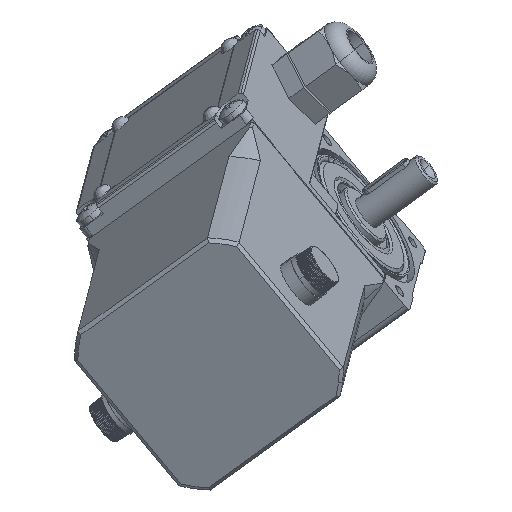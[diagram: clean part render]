
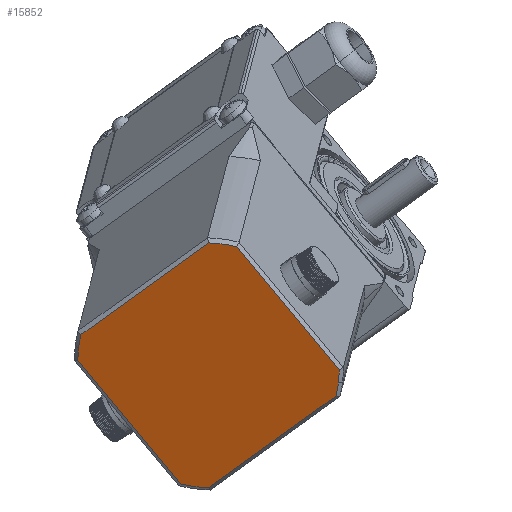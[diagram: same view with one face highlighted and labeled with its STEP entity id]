
A CAD part, front view. The second image highlights one B-rep face of the part: STEP entity #15852.
In plain terms, the highlighted planar face has unit normal (-0.094, -0.929, -0.357).
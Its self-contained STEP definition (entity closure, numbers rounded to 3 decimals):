
#15210=CARTESIAN_POINT('',(30.638,-47.344,-96.969));
#15211=VERTEX_POINT('',#15210);
#15227=CARTESIAN_POINT('',(30.835,-48.68,-93.545));
#15228=VERTEX_POINT('',#15227);
#15236=CARTESIAN_POINT('',(-3.014,-45.693,-92.402));
#15237=DIRECTION('',(0.094,0.929,0.357));
#15238=DIRECTION('',(0.99,-0.049,-0.134));
#15239=AXIS2_PLACEMENT_3D('',#15236,#15237,#15238);
#15240=CIRCLE('',#15239,34.);
#15241=EDGE_CURVE('',#15228,#15211,#15240,.T.);
#15251=CARTESIAN_POINT('',(-36.665,-44.042,-87.834));
#15252=VERTEX_POINT('',#15251);
#15260=CARTESIAN_POINT('',(-36.863,-42.706,-91.259));
#15261=VERTEX_POINT('',#15260);
#15269=CARTESIAN_POINT('',(-3.014,-45.693,-92.402));
#15270=DIRECTION('',(0.094,0.929,0.357));
#15271=DIRECTION('',(-0.99,0.049,0.134));
#15272=AXIS2_PLACEMENT_3D('',#15269,#15270,#15271);
#15273=CIRCLE('',#15272,34.);
#15274=EDGE_CURVE('',#15261,#15252,#15273,.T.);
#15526=CARTESIAN_POINT('',(4.258,-58.25,-61.654));
#15527=VERTEX_POINT('',#15526);
#15528=CARTESIAN_POINT('',(4.258,-58.25,-61.654));
#15529=DIRECTION('',(0.624,0.225,-0.749));
#15530=VECTOR('',#15529,42.602);
#15531=LINE('',#15528,#15530);
#15532=EDGE_CURVE('',#15527,#15228,#15531,.T.);
#15551=CARTESIAN_POINT('',(-36.072,-45.398,-84.463));
#15552=VERTEX_POINT('',#15551);
#15553=CARTESIAN_POINT('',(-3.019,-57.893,-60.666));
#15554=VERTEX_POINT('',#15553);
#15555=CARTESIAN_POINT('',(-36.072,-45.398,-84.463));
#15556=DIRECTION('',(0.776,-0.293,0.559));
#15557=VECTOR('',#15556,42.602);
#15558=LINE('',#15555,#15557);
#15559=EDGE_CURVE('',#15552,#15554,#15558,.T.);
#15593=CARTESIAN_POINT('',(30.045,-45.988,-100.34));
#15594=VERTEX_POINT('',#15593);
#15595=CARTESIAN_POINT('',(-3.009,-33.493,-124.137));
#15596=VERTEX_POINT('',#15595);
#15597=CARTESIAN_POINT('',(30.045,-45.988,-100.34));
#15598=DIRECTION('',(-0.776,0.293,-0.559));
#15599=VECTOR('',#15598,42.602);
#15600=LINE('',#15597,#15599);
#15601=EDGE_CURVE('',#15594,#15596,#15600,.T.);
#15633=CARTESIAN_POINT('',(-10.285,-33.136,-123.149));
#15634=VERTEX_POINT('',#15633);
#15635=CARTESIAN_POINT('',(-10.285,-33.136,-123.149));
#15636=DIRECTION('',(-0.624,-0.225,0.749));
#15637=VECTOR('',#15636,42.602);
#15638=LINE('',#15635,#15637);
#15639=EDGE_CURVE('',#15634,#15261,#15638,.T.);
#15666=CARTESIAN_POINT('',(-3.014,-45.693,-92.402));
#15667=DIRECTION('',(0.094,0.929,0.357));
#15668=DIRECTION('',(-0.99,0.049,0.134));
#15669=AXIS2_PLACEMENT_3D('',#15666,#15667,#15668);
#15670=CIRCLE('',#15669,34.);
#15671=EDGE_CURVE('',#15596,#15634,#15670,.T.);
#15683=CARTESIAN_POINT('',(-3.014,-45.693,-92.402));
#15684=DIRECTION('',(0.094,0.929,0.357));
#15685=DIRECTION('',(-0.99,0.049,0.134));
#15686=AXIS2_PLACEMENT_3D('',#15683,#15684,#15685);
#15687=CIRCLE('',#15686,34.);
#15688=EDGE_CURVE('',#15252,#15552,#15687,.T.);
#15707=CARTESIAN_POINT('',(-3.014,-45.693,-92.402));
#15708=DIRECTION('',(0.094,0.929,0.357));
#15709=DIRECTION('',(0.99,-0.049,-0.134));
#15710=AXIS2_PLACEMENT_3D('',#15707,#15708,#15709);
#15711=CIRCLE('',#15710,34.);
#15712=EDGE_CURVE('',#15211,#15594,#15711,.T.);
#15732=CARTESIAN_POINT('',(-3.014,-45.693,-92.402));
#15733=DIRECTION('',(0.094,0.929,0.357));
#15734=DIRECTION('',(-0.99,0.049,0.134));
#15735=AXIS2_PLACEMENT_3D('',#15732,#15733,#15734);
#15736=CIRCLE('',#15735,34.);
#15737=EDGE_CURVE('',#15554,#15527,#15736,.T.);
#15835=CARTESIAN_POINT('',(-11.436,-48.726,-82.296));
#15836=DIRECTION('',(-0.094,-0.929,-0.357));
#15837=DIRECTION('',(0.776,-0.293,0.559));
#15838=AXIS2_PLACEMENT_3D('',#15835,#15836,#15837);
#15839=PLANE('',#15838);
#15840=ORIENTED_EDGE('',*,*,#15639,.F.);
#15841=ORIENTED_EDGE('',*,*,#15671,.F.);
#15842=ORIENTED_EDGE('',*,*,#15601,.F.);
#15843=ORIENTED_EDGE('',*,*,#15712,.F.);
#15844=ORIENTED_EDGE('',*,*,#15241,.F.);
#15845=ORIENTED_EDGE('',*,*,#15532,.F.);
#15846=ORIENTED_EDGE('',*,*,#15737,.F.);
#15847=ORIENTED_EDGE('',*,*,#15559,.F.);
#15848=ORIENTED_EDGE('',*,*,#15688,.F.);
#15849=ORIENTED_EDGE('',*,*,#15274,.F.);
#15850=EDGE_LOOP('',(#15840,#15841,#15842,#15843,#15844,#15845,#15846,#15847,#15848,#15849));
#15851=FACE_OUTER_BOUND('',#15850,.T.);
#15852=ADVANCED_FACE('',(#15851),#15839,.T.);
